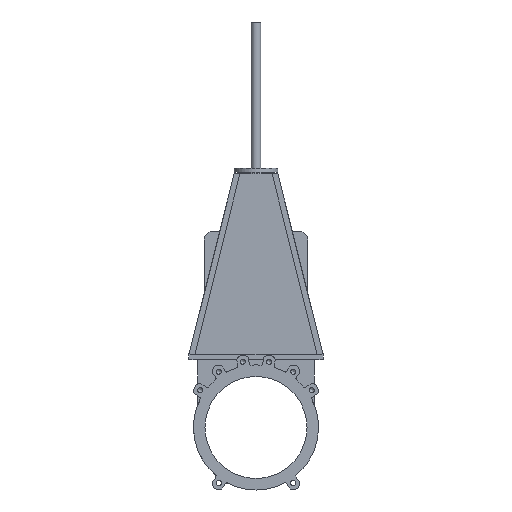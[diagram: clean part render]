
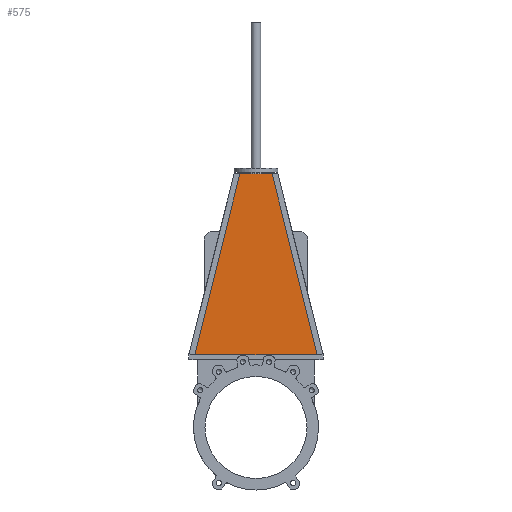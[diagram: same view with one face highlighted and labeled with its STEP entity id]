
A CAD part, front view. The second image highlights one B-rep face of the part: STEP entity #575.
In plain terms, the highlighted planar face has unit normal (0, -1, 0).
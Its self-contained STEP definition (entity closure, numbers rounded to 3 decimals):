
#575=ADVANCED_FACE('',(#2632),#2634,.F.);
#2632=FACE_BOUND('',#2633,.T.);
#2633=EDGE_LOOP('',(#4351,#4352,#4353,#4354,#4355,#4356));
#2634=PLANE('',#2635);
#2635=AXIS2_PLACEMENT_3D('',#2636,#2637,#2638);
#2636=CARTESIAN_POINT('',(210.,-36.,249.5));
#2637=DIRECTION('',(0.,1.,0.));
#2638=DIRECTION('',(-1.,0.,0.));
#4351=ORIENTED_EDGE('',*,*,#5380,.F.);
#4352=ORIENTED_EDGE('',*,*,#5379,.T.);
#4353=ORIENTED_EDGE('',*,*,#5461,.F.);
#4354=ORIENTED_EDGE('',*,*,#5463,.F.);
#4355=ORIENTED_EDGE('',*,*,#5464,.T.);
#4356=ORIENTED_EDGE('',*,*,#5386,.T.);
#5379=EDGE_CURVE('',#6022,#6088,#6090,.T.);
#5380=EDGE_CURVE('',#6022,#6026,#6091,.F.);
#5386=EDGE_CURVE('',#6102,#6026,#6103,.T.);
#5461=EDGE_CURVE('',#6231,#6088,#6232,.T.);
#5463=EDGE_CURVE('',#6234,#6231,#6235,.T.);
#5464=EDGE_CURVE('',#6234,#6102,#6236,.T.);
#6022=VERTEX_POINT('',#7250);
#6026=VERTEX_POINT('',#7260);
#6088=VERTEX_POINT('',#7404);
#6090=LINE('',#7408,#7409);
#6091=LINE('',#7411,#7412);
#6102=VERTEX_POINT('',#7439);
#6103=LINE('',#7440,#7441);
#6231=VERTEX_POINT('',#7723);
#6232=LINE('',#7724,#7725);
#6234=VERTEX_POINT('',#7730);
#6235=LINE('',#7731,#7732);
#6236=LINE('',#7734,#7735);
#7250=CARTESIAN_POINT('',(-17.436,-36.,870.));
#7260=CARTESIAN_POINT('',(17.436,-36.,870.));
#7404=CARTESIAN_POINT('',(-55.,-36.,870.));
#7408=CARTESIAN_POINT('',(-17.436,-36.,870.));
#7409=VECTOR('',#7410,1.);
#7410=DIRECTION('',(-1.,0.,0.));
#7411=CARTESIAN_POINT('',(17.436,-36.,870.));
#7412=VECTOR('',#7413,1.);
#7413=DIRECTION('',(-1.,0.,0.));
#7439=CARTESIAN_POINT('',(55.,-36.,870.));
#7440=CARTESIAN_POINT('',(55.,-36.,870.));
#7441=VECTOR('',#7442,1.);
#7442=DIRECTION('',(-1.,0.,0.));
#7723=CARTESIAN_POINT('',(-210.,-36.,249.5));
#7724=CARTESIAN_POINT('',(-210.,-36.,249.5));
#7725=VECTOR('',#7726,1.);
#7726=DIRECTION('',(0.242,0.,0.97));
#7730=CARTESIAN_POINT('',(210.,-36.,249.5));
#7731=CARTESIAN_POINT('',(210.,-36.,249.5));
#7732=VECTOR('',#7733,1.);
#7733=DIRECTION('',(-1.,0.,0.));
#7734=CARTESIAN_POINT('',(210.,-36.,249.5));
#7735=VECTOR('',#7736,1.);
#7736=DIRECTION('',(-0.242,0.,0.97));
